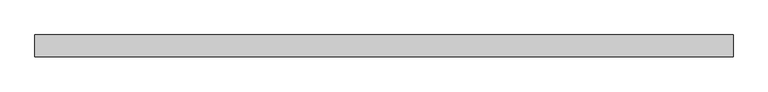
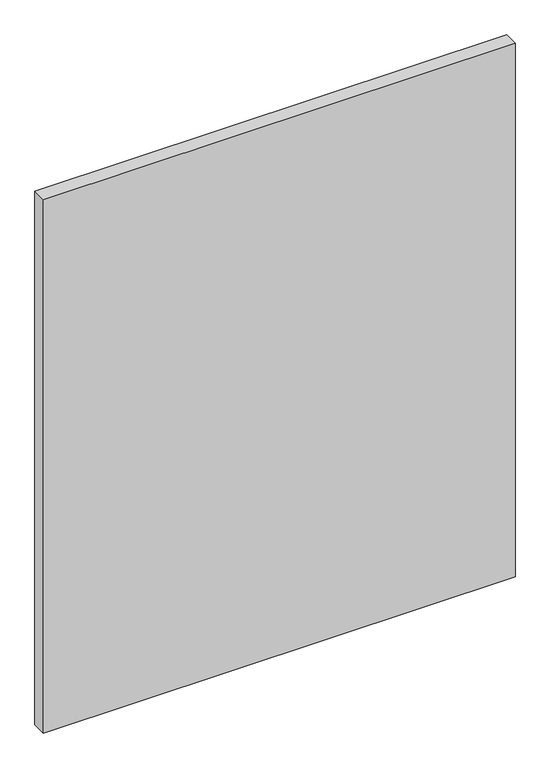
"""IFC4 building model written with IfcOpenShell, lengths in millimetres: plate geometry, Системная панель : Стекло(50мм)."""

from ifc_helpers import new_model, si_unit, origin, origin_with_axes, place, context, project, spatial, polyline, outline, extrude, source, transform, mapped, element, save


def plate_1732cab8(model_context):
    return source(origin(), model_context, "Body", "SweptSolid", [
        extrude(outline(polyline([(794.3168429, -25.0), (-794.3168429, -25.0), (-794.3168429, 25.0), (794.3168429, 25.0), (794.3168429, -25.0)])), origin_with_axes(), (0.0, 0.0, 1.0), 1900.0),
    ])


if __name__ == "__main__":
    model = new_model("IFC4")
    model_context = context("Model", 3, world=origin())
    ifc_project = project(units=[si_unit("LENGTHUNIT", "METRE", prefix="MILLI")], contexts=[model_context])
    site = spatial("IfcSite", under=ifc_project)
    building = spatial("IfcBuilding", under=site)
    placement = place(None, origin())
    plate_shape = plate_1732cab8(model_context)
    element("IfcPlate", 1, ObjectType="Системная панель : Стекло(50мм)", at=placement, inside=building, context=model_context, shape_type="MappedRepresentation", body=[
        mapped(plate_shape, transform((0.0, 0.0, 0.0), x_axis=(1.0, 0.0, 0.0), y_axis=(0.0, 1.0, 0.0), z_axis=(0.0, 0.0, 1.0))),
    ])
    save(model, "model.ifc")
